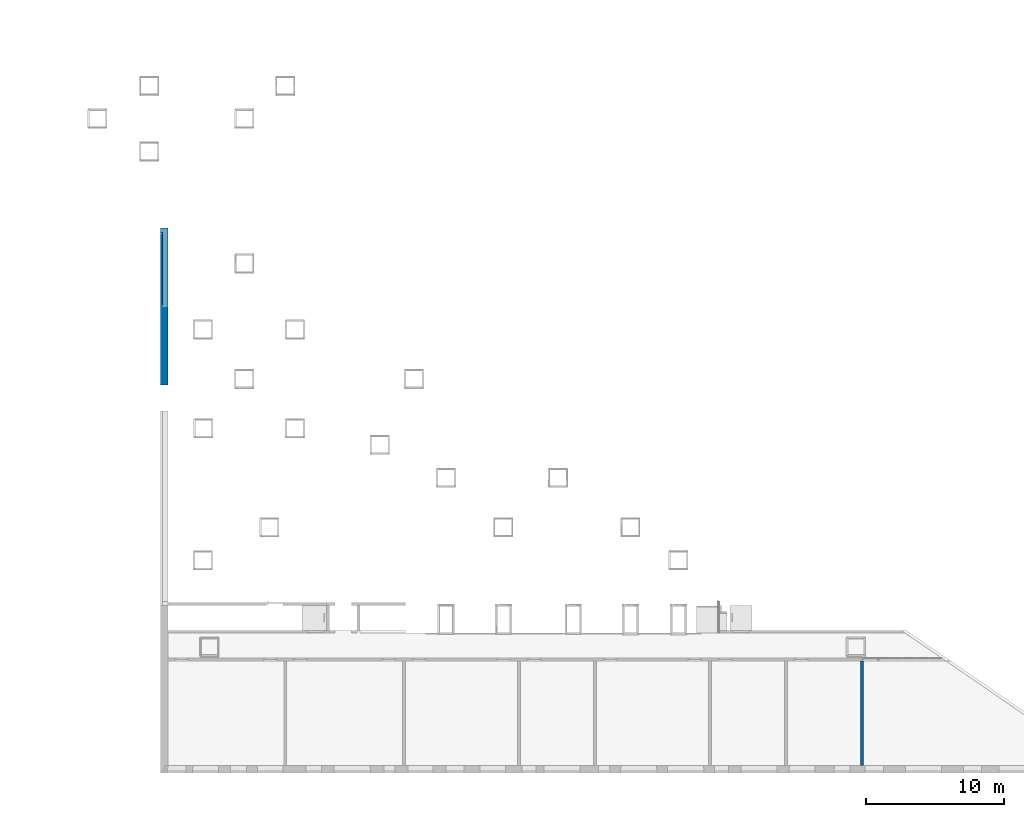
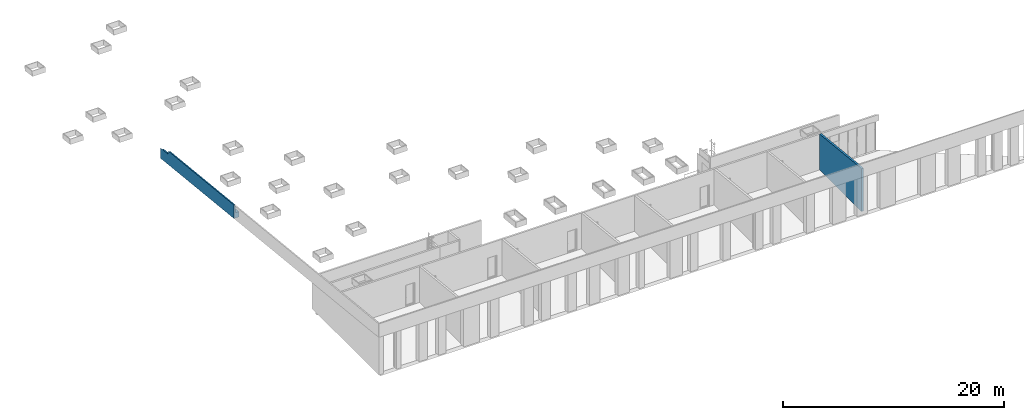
# One storey, part 10 of 23: 2 walls.
"""IFC2X3 building model written with IfcOpenShell, lengths in millimetres."""

from ifc_helpers import new_model, entity, si_unit, converted_unit, derived_unit, money_unit, direction, frame, origin_with_axes, place, context, subcontext, project, spatial, faceted_brep, material, material_list, type_object, element, save


model = new_model("IFC2X3")

# Units and contexts
model_context = context("Model", 3, precision=0.01, world=origin_with_axes(), true_north=direction((0.0, 1.0)))
body_context = subcontext(model_context, "Body", "Model", "MODEL_VIEW")
ifc_project = project(units=[si_unit("LENGTHUNIT", "METRE", prefix="MILLI"), si_unit("AREAUNIT", "SQUARE_METRE"), si_unit("VOLUMEUNIT", "CUBIC_METRE"), converted_unit("PLANEANGLEUNIT", "DEGREE", entity("IfcPlaneAngleMeasure", 0.0174532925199), si_unit("PLANEANGLEUNIT", "RADIAN"), dimensions=[0, 0, 0, 0, 0, 0, 0]), si_unit("SOLIDANGLEUNIT", "STERADIAN"), money_unit("EUR"), converted_unit("TIMEUNIT", "Year", entity("IfcTimeMeasure", 31556926.0), si_unit("TIMEUNIT", "SECOND"), dimensions=[0, 0, 1, 0, 0, 0, 0]), si_unit("MASSUNIT", "GRAM", prefix="KILO"), si_unit("THERMODYNAMICTEMPERATUREUNIT", "DEGREE_CELSIUS"), si_unit("LUMINOUSINTENSITYUNIT", "LUMEN"), si_unit("ENERGYUNIT", "JOULE", prefix="MEGA"), derived_unit("THERMALCONDUCTANCEUNIT", [(si_unit("POWERUNIT", "WATT"), 1), (si_unit("LENGTHUNIT", "METRE"), -1), (si_unit("THERMODYNAMICTEMPERATUREUNIT", "KELVIN"), -1)]), derived_unit("SPECIFICHEATCAPACITYUNIT", [(si_unit("ENERGYUNIT", "JOULE"), 1), (si_unit("MASSUNIT", "GRAM", prefix="KILO"), -1), (si_unit("THERMODYNAMICTEMPERATUREUNIT", "KELVIN"), -1)]), derived_unit("MASSDENSITYUNIT", [(si_unit("MASSUNIT", "GRAM", prefix="KILO"), 1), (si_unit("VOLUMEUNIT", "CUBIC_METRE"), -1)])], contexts=[model_context])

# Site, building, storey
site_placement = place(None, origin_with_axes())
site = spatial("IfcSite", under=ifc_project, at=site_placement, Name="L.Koidula tn 11b", CompositionType="ELEMENT")
building_placement = place(site_placement, origin_with_axes())
building = spatial("IfcBuilding", under=site, at=building_placement, Name="Rakvere Riigigümnaasium", CompositionType="ELEMENT")
storey_placement = place(building_placement, frame((0.0, 0.0, 7440.0), z_axis=(0.0, 0.0, 1.0), x_axis=(1.0, 0.0, 0.0)))
storey = spatial("IfcBuildingStorey", under=building, at=storey_placement, Name="3.korrus +7,44", CompositionType="ELEMENT", Elevation=7440.0)

# Walls
ifc_material_1 = material(Name="Krohv")
ifc_material_2 = material(Name="Silikaat plokk")
ifc_material_list_1 = material_list([ifc_material_1, ifc_material_2, ifc_material_1])
wall_type_1 = type_object("IfcWallType", Name="SS-04 200", PredefinedType="NOTDEFINED")
wall_1_placement = place(storey_placement, frame((85859.9999997, 5500.45553887, 0.0), z_axis=(0.0, 0.0, 1.0), x_axis=(0.0, 1.0, 0.0)))
element("IfcWall", 1, at=wall_1_placement, inside=storey, type_object=wall_type_1, material=ifc_material_list_1, Name="Sisesein", context=body_context, shape_type="Brep", body=[
    faceted_brep([(7569.99883287, 190.0, 3950.29891644), (7569.99883287, 180.0, 3950.29876465), (7569.99883287, 180.0, 0.0), (7569.99883287, 190.0, 0.0), (437.06797355, 180.000003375, 4700.0), (437.069417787, 189.999999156, 4700.0), (0.0, 180.000003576, 4700.0), (0.0, 180.000003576, 4160.0), (10.0, 180.0, 4160.0), (10.0, 180.0, 0.0), (10.0, 190.0, 0.0), (10.0, 190.0, 4160.0), (0.0, 189.999999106, 4160.0), (0.0, 189.999999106, 4700.0)], [[[0, 1, 2, 3]], [[4, 1, 0, 5]], [[1, 4, 6, 7, 8, 9, 2]], [[2, 9, 10, 3]], [[5, 0, 3, 10, 11, 12, 13]], [[4, 5, 13, 6]], [[13, 12, 7, 6]], [[11, 8, 7, 12]], [[10, 9, 8, 11]]]),
    faceted_brep([(7579.99883287, 180.0, 3949.2477223), (7579.99883287, 0.0, 3949.24498998), (7579.99883287, 0.0, 0.0), (7579.99883287, 180.0, 0.0), (437.04197726, 3.37537642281e-06, 4700.0), (437.06797355, 180.000003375, 4700.0), (0.0, 3.57627527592e-06, 4700.0), (0.0, 0.0, 0.0), (0.0, 180.0, 0.0), (0.0, 180.000003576, 4700.0)], [[[0, 1, 2, 3]], [[4, 1, 0, 5]], [[1, 4, 6, 7, 2]], [[3, 2, 7, 8]], [[5, 0, 3, 8, 9]], [[4, 5, 9, 6]], [[6, 9, 8, 7]]]),
    faceted_brep([(7569.99883287, 0.0, 3950.29603233), (7569.99883287, -10.0, 3950.29588053), (7569.99883287, -10.0, 0.0), (7569.99883287, 0.0, 0.0), (437.040533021, -10.0, 4700.0), (437.04197726, 3.37537642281e-06, 4700.0), (0.0, -10.0, 4700.0), (0.0, -10.0, 4160.0), (10.0, -10.0, 4160.0), (10.0, -10.0, 0.0), (10.0, 0.0, 0.0), (10.0, 0.0, 4160.0), (0.0, 3.57626106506e-06, 4160.0), (0.0, 3.57627527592e-06, 4700.0)], [[[0, 1, 2, 3]], [[4, 1, 0, 5]], [[1, 4, 6, 7, 8, 9, 2]], [[3, 2, 9, 10]], [[5, 0, 3, 10, 11, 12, 13]], [[4, 5, 13, 6]], [[6, 13, 12, 7]], [[12, 11, 8, 7]], [[11, 10, 9, 8]]]),
])
ifc_material_3 = material(Name="Betoon-element")
ifc_material_4 = material(Name="FF-PIR soojustus")
ifc_material_5 = material(Name="Tuuletõke (RKL Facade)")
ifc_material_6 = material(Name="Roovid-puit")
ifc_material_list_2 = material_list([ifc_material_3, ifc_material_4, ifc_material_5, ifc_material_6, ifc_material_6, ifc_material_6])
wall_type_2 = type_object("IfcWallType", Name="VS-10-1 526", PredefinedType="NOTDEFINED")
wall_2_placement = place(storey_placement, frame((35500.0000521, 44444.1209494, -258.518674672), z_axis=(0.0, 0.0, 1.0), x_axis=(0.0, -1.0, 0.0)))
element("IfcWall", 2, at=wall_2_placement, inside=storey, type_object=wall_type_2, material=ifc_material_list_2, Name="Välissein", context=body_context, shape_type="Brep", body=[
    faceted_brep([(343.677538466, -1.70530256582e-10, 892.892960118), (343.677646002, 0.0, 889.035964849), (343.677646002, -300.0, 889.035966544), (343.677538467, -300.0, 892.897513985), (0.0, 0.0, 758.518695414), (0.0, 0.0, 840.123392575), (13276.6961843, 0.0, 2252.20798039), (13276.6961843, 0.0, 1661.76038424), (392.611513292, 0.0, 307.588517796), (392.611513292, 0.0, 468.518674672), (379.67273343, 0.0, 468.518674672), (379.67273343, 0.0, 758.518695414), (0.0, -300.0, 840.12339427), (0.0, -300.0, 266.323384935), (13276.6961843, -300.0, 1661.76038424), (13276.6961843, -300.0, 2252.21253426), (0.0, -169.999999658, 468.518695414), (0.0, 0.0, 468.518695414), (0.0, 0.0, 266.323384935), (0.0, -169.999999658, 758.518695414), (292.611513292, -169.999999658, 297.078094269), (392.611513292, -169.999999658, 307.588517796), (292.611513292, 0.0, 297.078094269), (392.611513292, -169.999999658, 468.518674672), (379.67273343, -169.999999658, 468.518674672), (379.67273343, -169.999999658, 758.518695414), (292.611513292, 0.0, 468.518674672), (292.611513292, -169.999999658, 468.518674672)], [[[0, 1, 2, 3]], [[4, 5, 1, 0, 6, 7, 8, 9, 10, 11]], [[1, 5, 12, 2]], [[12, 13, 14, 15, 3, 2]], [[0, 3, 15, 6]], [[16, 17, 18, 13, 12, 5, 4, 19]], [[15, 14, 7, 6]], [[20, 21, 8, 7, 14, 13, 18, 22]], [[9, 8, 21, 23]], [[10, 9, 23, 24]], [[24, 25, 11, 10]], [[4, 11, 25, 19]], [[26, 17, 16, 27]], [[26, 22, 18, 17]], [[16, 19, 25, 24, 23, 21, 20, 27]], [[27, 20, 22, 26]]]),
    faceted_brep([(343.677646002, -380.0, 889.035966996), (343.677538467, -380.0, 892.89872835), (343.677538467, -300.0, 892.897513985), (343.677646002, -300.0, 889.035966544), (13276.6961843, -380.0, 1661.76038424), (13276.6961843, -380.0, 2252.21374862), (0.0, -380.0, 840.123394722), (0.0, -380.0, 266.323384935), (13276.6961843, -300.0, 2252.21253426), (13276.6961843, -300.0, 1661.76038424), (0.0, -300.0, 266.323384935), (0.0, -300.0, 840.12339427)], [[[0, 1, 2, 3]], [[4, 5, 1, 0, 6, 7]], [[5, 8, 2, 1]], [[3, 2, 8, 9, 10, 11]], [[6, 0, 3, 11]], [[9, 8, 5, 4]], [[10, 7, 6, 11]], [[10, 9, 4, 7]]]),
    faceted_brep([(1473.60119845, -430.0, 1741.45445345), (1523.01809093, -380.016635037, 1746.64837814), (1523.0194501, -380.015260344, 1720.70835242), (1523.02103276, -380.013659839, 1570.4147518), (1473.60119879, -430.0, 1565.22051815), (13276.6961843, -380.016617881, 2982.00972571), (1513.46822095, -430.0, 1745.64464636), (1545.16127629, -398.000624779, 1748.9757207), (13276.6961843, -398.000624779, 2982.00972571), (13276.6961843, -380.015250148, 2956.06954425), (13276.6961843, -380.025875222, 2252.21374902), (343.677538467, -380.025945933, 892.898728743), (343.67764708, -380.013659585, 1446.46075578), (343.67764708, -430.0, 1446.46075599), (343.677646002, -430.0, 889.035967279), (0.0, -430.0, 840.123395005), (0.0, -430.0, 266.323384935), (13276.6961843, -430.0, 1661.76038424), (13276.6961843, -430.0, 3157.58276949), (1513.46822095, -430.0, 1921.21769014), (1545.16127629, -398.000624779, 1924.54876449), (13276.6961843, -398.000624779, 3157.58276949), (13276.6961843, -380.0, 1661.76038424), (13276.6961843, -380.0, 2252.21374862), (343.677646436, -380.0, 892.898739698), (343.677646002, -380.0, 889.035966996), (0.0, -380.0, 840.123394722), (0.0, -380.0, 266.323384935)], [[[0, 1, 2, 3, 4]], [[5, 1, 0, 6, 7, 8]], [[1, 5, 9, 2]], [[2, 9, 10, 11, 12, 3]], [[12, 13, 4, 3]], [[6, 0, 4, 13, 14, 15, 16, 17, 18, 19]], [[19, 20, 7, 6]], [[20, 21, 8, 7]], [[8, 21, 18, 17, 22, 23, 10, 9, 5]], [[24, 11, 10, 23]], [[25, 14, 13, 12, 11, 24]], [[26, 15, 14, 25]], [[27, 16, 15, 26]], [[22, 17, 16, 27]], [[20, 19, 18, 21]], [[24, 23, 22, 27, 26, 25]]]),
    faceted_brep([(1441.96386149, -462.0, 1738.12923534), (1473.60119845, -430.0, 1741.45445345), (1473.60119879, -430.0, 1565.22051815), (1441.96386183, -462.0, 1561.89530018), (1513.46822095, -430.0, 1745.64464636), (1481.77454682, -462.0, 1742.31350698), (1513.46822095, -430.0, 1921.21769014), (13276.6961843, -430.0, 3157.58276949), (13276.6961843, -430.0, 1661.76038424), (0.0, -430.0, 266.323384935), (0.0, -430.0, 840.123395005), (343.677646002, -430.0, 889.035967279), (343.67764708, -430.0, 1446.46075599), (343.67764708, -462.0, 1446.46075612), (343.677646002, -462.0, 889.035967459), (0.0, -462.0, 840.123395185), (0.0, -462.0, 266.323384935), (13276.6961843, -462.0, 1661.76038424), (13276.6961843, -462.0, 3157.58276949), (1481.77454682, -462.0, 1917.88655076)], [[[0, 1, 2, 3]], [[4, 1, 0, 5]], [[4, 6, 7, 8, 9, 10, 11, 12, 2, 1]], [[2, 12, 13, 3]], [[5, 0, 3, 13, 14, 15, 16, 17, 18, 19]], [[19, 6, 4, 5]], [[6, 19, 18, 7]], [[8, 7, 18, 17]], [[9, 8, 17, 16]], [[16, 15, 10, 9]], [[14, 11, 10, 15]], [[12, 11, 14, 13]]]),
    faceted_brep([(1410.32652453, -494.0, 1734.80401723), (1441.96386149, -462.0, 1738.12923534), (1441.96386183, -462.0, 1561.89530018), (1410.32652487, -494.0, 1558.5700822), (1481.77454682, -462.0, 1742.31350698), (1450.08087269, -494.0, 1738.98236759), (1481.77454682, -462.0, 1917.88655076), (13276.6961843, -462.0, 3157.58276949), (13276.6961843, -462.0, 1661.76038424), (0.0, -462.0, 266.323384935), (0.0, -462.0, 840.123395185), (343.677646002, -462.0, 889.035967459), (343.67764708, -462.0, 1446.46075612), (343.67764708, -494.0, 1446.46075626), (343.677646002, -494.0, 889.03596764), (0.0, -494.0, 840.123395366), (0.0, -494.0, 266.323384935), (13276.6961843, -494.0, 1661.76038424), (13276.6961843, -494.0, 3157.58276949), (1450.08087269, -494.0, 1914.55541138)], [[[0, 1, 2, 3]], [[4, 1, 0, 5]], [[4, 6, 7, 8, 9, 10, 11, 12, 2, 1]], [[2, 12, 13, 3]], [[5, 0, 3, 13, 14, 15, 16, 17, 18, 19]], [[19, 6, 4, 5]], [[6, 19, 18, 7]], [[8, 7, 18, 17]], [[9, 8, 17, 16]], [[16, 15, 10, 9]], [[14, 11, 10, 15]], [[12, 11, 14, 13]]]),
    faceted_brep([(0.0, -526.0, 1397.54821566), (0.0, -514.000001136, 1397.54821559), (0.0, -514.000004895, 840.123395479), (0.0, -494.0, 840.123395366), (0.0, -494.0, 266.323384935), (0.0, -526.0, 266.323384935), (343.677538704, -514.000001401, 1446.4607726), (343.677538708, -526.0, 1446.46077267), (343.677646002, -514.000004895, 889.035967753), (343.677646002, -494.0, 889.03596764), (343.67764708, -494.0, 1446.46075626), (1410.32652487, -494.0, 1558.5700822), (1410.32652453, -494.0, 1734.80401723), (1450.08087269, -494.0, 1738.98236759), (1450.08087269, -494.0, 1914.55541138), (13276.6961843, -494.0, 3157.58276949), (13276.6961843, -494.0, 1661.76038424), (13276.6961843, -526.0, 1661.76038424), (13276.6961843, -526.0, 3157.58276949), (1418.38719856, -526.0, 1911.224272), (1418.38719856, -526.0, 1735.65122821), (1378.68918757, -526.0, 1731.47879913), (1378.68918791, -526.0, 1555.24486423)], [[[0, 1, 2, 3, 4, 5]], [[6, 1, 0, 7]], [[1, 6, 8, 2]], [[3, 2, 8, 9]], [[4, 3, 9, 10, 11, 12, 13, 14, 15, 16]], [[17, 5, 4, 16]], [[7, 0, 5, 17, 18, 19, 20, 21, 22]], [[6, 7, 22, 11, 10]], [[8, 6, 10, 9]], [[11, 22, 21, 12]], [[21, 20, 13, 12]], [[13, 20, 19, 14]], [[18, 15, 14, 19]], [[18, 17, 16, 15]]]),
])

save(model, "model.ifc")
